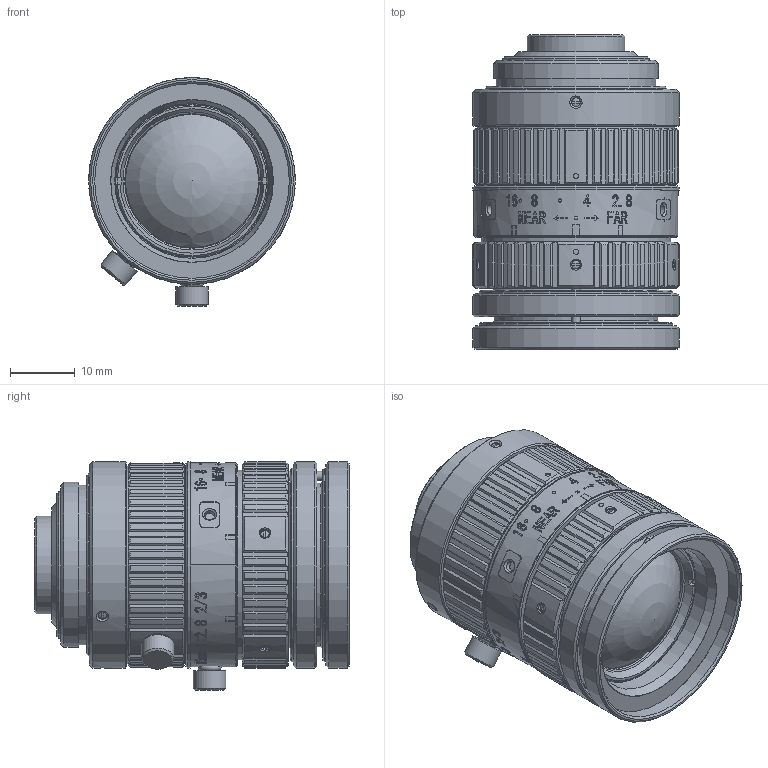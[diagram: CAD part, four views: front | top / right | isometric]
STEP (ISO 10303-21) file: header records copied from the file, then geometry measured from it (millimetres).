
FILE_DESCRIPTION(/* description */ ('Unknown'),/* implementation_level */ '2;1');
FILE_NAME(/* name */ 'M1628-MPX_Outline_240925',/* time_stamp */ '2024-09-25T17:19:29+09:00',/* author */ ('Unknown'),/* organization */ ('Unknown'),/* preprocessor_version */ 'ST-DEVELOPER v18.102',/* originating_system */ 'Solid Edge',/* authorisation */ 'Unknown');
FILE_SCHEMA (('AUTOMOTIVE_DESIGN {1 0 10303 214 3 1 1}'));
Length unit declared in the file: millimetre
Products named in the file (5): M1628-MPX_Outline_240925; Fix-Screw; Fixed-Barrel; Lens-Barrel_inf; Lens-Barrel_Mod
Assembly tree (4 placements, depth 2):
  M1628-MPX_Outline_240925
    Fix-Screw
    Fixed-Barrel
    Lens-Barrel_inf
    Lens-Barrel_Mod
Bounding box: 31.8 x 48.43 x 35.2 mm (x, y, z)
Volume: 51872.2 mm3; surface area: 17098.7 mm2
Topology: 7 solids, 9 shells, 1215 faces, 3123 edges, 2049 vertices
Faces by surface type: plane 642, cylinder 242, bspline 170, cone 140, sphere 19, torus 2
Full cylindrical faces by diameter (mm): 0.8 x2, 1.321 x8, 1.4 x2, 1.5 x2, 1.567 x3, 2 x3, 2.4 x1, 2.8 x1, 3 x1, 4.5 x2, 4.999 x2, 10.9 x1, 13 x1, 15 x1, 20.5 x2, 22.6 x1, 22.65 x1, 23.8 x2, 24.6 x1, 25 x2, 25.2 x2, 25.4 x1, 25.8 x1, 26 x1, 28 x1, 29 x1, 29.2 x1, 29.8 x2, 29.9 x1, 29.959 x2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
Entity records: 54344 total; most frequent: CARTESIAN_POINT 18820, ORIENTED_EDGE 5860, DIRECTION 4819, EDGE_CURVE 2930, VERTEX_POINT 1994, AXIS2_PLACEMENT_3D 1851, FACE_BOUND 1478, EDGE_LOOP 1476
